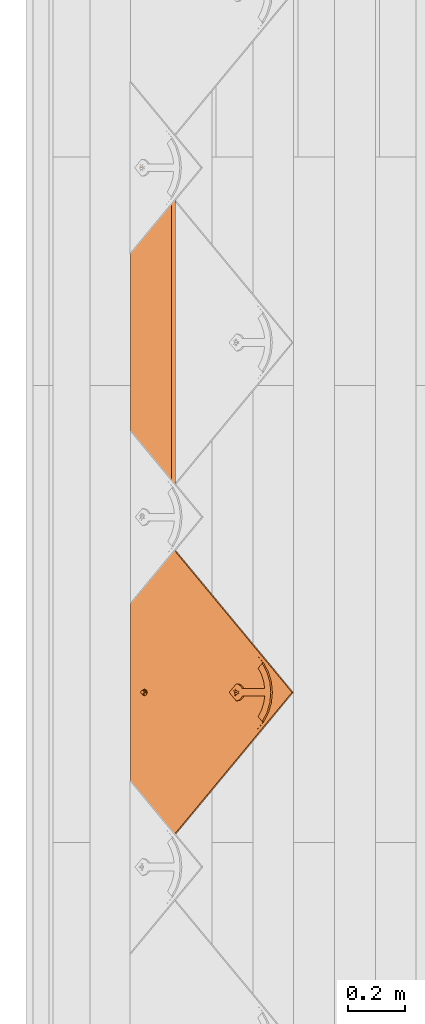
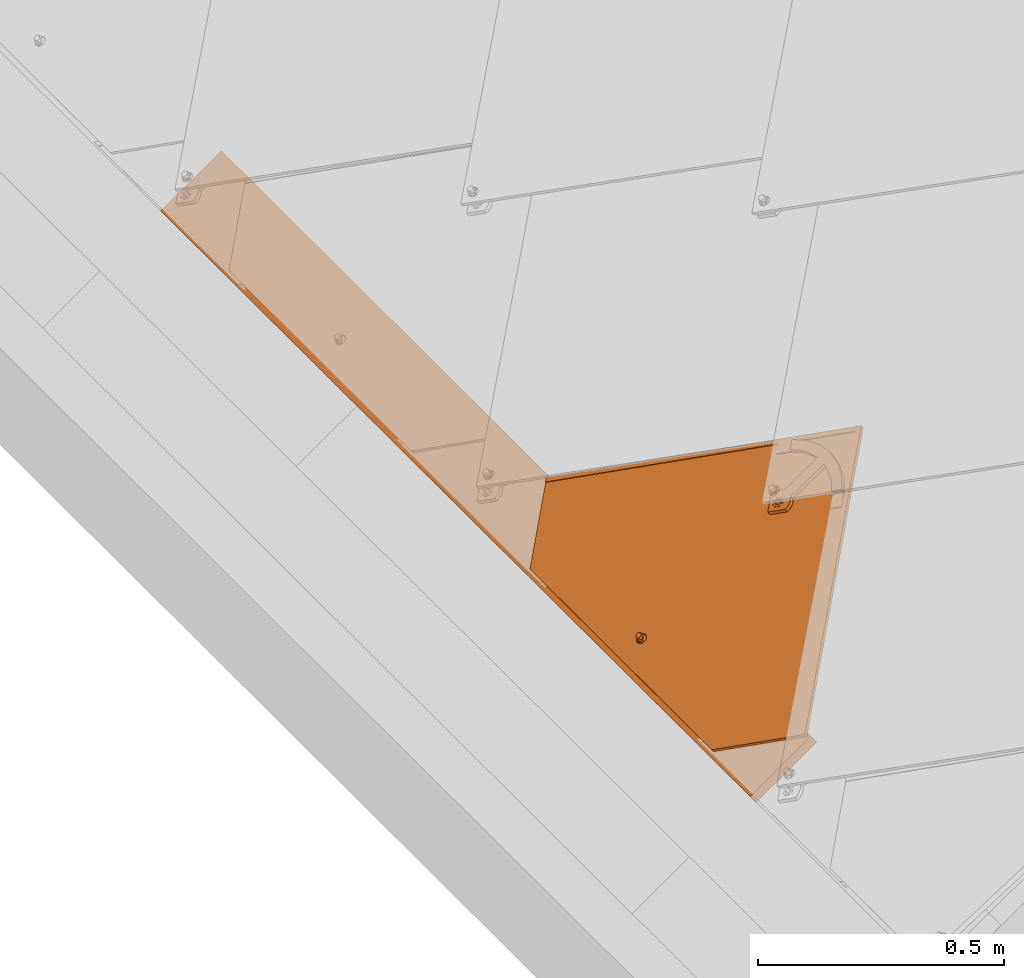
# One storey, part 47 of 151: 2 proxies, 1 element without a shape of its own.
"""IFC2X3 building model written with IfcOpenShell, lengths in millimetres."""

from ifc_helpers import new_model, entity, si_unit, converted_unit, derived_unit, direction, frame, frame_2d, origin, place, context, subcontext, project, spatial, rectangle, extrude, faceted_brep, source, transform, mapped, material, material_list, type_object, type_shapes, element, aggregate, save


model = new_model("IFC2X3")

# Units and contexts
model_context = context("Model", 3, precision=0.01, world=origin(), true_north=direction((6.12303176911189e-17, 1.0)))
body_context = subcontext(model_context, "Body", "Model", "MODEL_VIEW")
ifc_project = project(units=[si_unit("LENGTHUNIT", "METRE", prefix="MILLI"), si_unit("AREAUNIT", "SQUARE_METRE"), si_unit("VOLUMEUNIT", "CUBIC_METRE"), converted_unit("PLANEANGLEUNIT", "DEGREE", entity("IfcRatioMeasure", 0.0174532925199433), si_unit("PLANEANGLEUNIT", "RADIAN"), dimensions=[0, 0, 0, 0, 0, 0, 0]), si_unit("MASSUNIT", "GRAM", prefix="KILO"), derived_unit("MASSDENSITYUNIT", [(si_unit("MASSUNIT", "GRAM", prefix="KILO"), 1), (si_unit("LENGTHUNIT", "METRE"), -3)]), si_unit("TIMEUNIT", "SECOND"), si_unit("FREQUENCYUNIT", "HERTZ"), si_unit("THERMODYNAMICTEMPERATUREUNIT", "DEGREE_CELSIUS"), derived_unit("THERMALTRANSMITTANCEUNIT", [(si_unit("MASSUNIT", "GRAM", prefix="KILO"), 1), (si_unit("THERMODYNAMICTEMPERATUREUNIT", "KELVIN"), -1), (si_unit("TIMEUNIT", "SECOND"), -3)]), derived_unit("VOLUMETRICFLOWRATEUNIT", [(si_unit("LENGTHUNIT", "METRE"), 3), (si_unit("TIMEUNIT", "SECOND"), -1)]), si_unit("ELECTRICCURRENTUNIT", "AMPERE"), si_unit("ELECTRICVOLTAGEUNIT", "VOLT"), si_unit("POWERUNIT", "WATT"), si_unit("FORCEUNIT", "NEWTON", prefix="KILO"), si_unit("ILLUMINANCEUNIT", "LUX"), si_unit("LUMINOUSFLUXUNIT", "LUMEN"), si_unit("LUMINOUSINTENSITYUNIT", "CANDELA"), derived_unit("USERDEFINED", [(si_unit("MASSUNIT", "GRAM", prefix="KILO"), -1), (si_unit("LENGTHUNIT", "METRE"), -2), (si_unit("TIMEUNIT", "SECOND"), 3), (si_unit("LUMINOUSFLUXUNIT", "LUMEN"), 1)]), derived_unit("LINEARVELOCITYUNIT", [(si_unit("LENGTHUNIT", "METRE"), 1), (si_unit("TIMEUNIT", "SECOND"), -1)]), si_unit("PRESSUREUNIT", "PASCAL"), derived_unit("USERDEFINED", [(si_unit("LENGTHUNIT", "METRE"), -2), (si_unit("MASSUNIT", "GRAM", prefix="KILO"), 1), (si_unit("TIMEUNIT", "SECOND"), -2)])], contexts=[model_context])

# Site, building, storey
site_placement = place(None, origin())
site = spatial("IfcSite", under=ifc_project, at=site_placement, Name="Default", CompositionType="ELEMENT")
building_placement = place(site_placement, origin())
building = spatial("IfcBuilding", under=site, at=building_placement, CompositionType="ELEMENT")
storey_placement = place(building_placement, origin())
storey = spatial("IfcBuildingStorey", under=building, at=storey_placement, Name="Level 1", CompositionType="ELEMENT", Elevation=0.0)

# Assembly, proxy
assembly_placement = place(storey_placement, origin())
assembly = element("IfcElementAssembly", 1, at=assembly_placement, inside=storey, Name="Structural Framing Assembly:Roof Construction Assembly", ObjectType="Structural Framing Assembly:Roof Construction Assembly", AssemblyPlace="NOTDEFINED", PredefinedType="USERDEFINED")
ifc_material_1 = material(Name="Wood - Generic - Wood For Showcase")
building_element_proxy_type_1 = type_object("IfcBuildingElementProxyType", Name="Structural Framing 15", PredefinedType="NOTDEFINED", material=ifc_material_1)
shared_shape_1 = source(origin(), body_context, "Body", "SweptSolid", [
    extrude(rectangle(XDim=24.9999999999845, YDim=174.344679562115, at=frame_2d((-1.77635683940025e-13, -4.54747350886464e-13), x_axis=(0.0, 1.0))), frame((1128.20180147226, 1525.55080214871, 2760.23940055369), z_axis=(0.0, 1.0, 0.0), x_axis=(-0.819152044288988, 0.0, -0.573576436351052)), (0.0, 0.0, 1.0), 2400.0),
])
type_shapes(building_element_proxy_type_1, [shared_shape_1])
proxy_1_placement = place(assembly_placement, frame((-3370.06734507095, -2470.0, -2400.0)))
proxy_1 = element("IfcBuildingElementProxy", 2, at=proxy_1_placement, type_object=building_element_proxy_type_1, material=ifc_material_1, Name="Structural Framing 136:Structural Framing 15", ObjectType="Structural Framing 136:Structural Framing 15", context=body_context, shape_type="MappedRepresentation", body=[
    mapped(shared_shape_1, transform((0.0, 0.0, 0.0), scale=1.0)),
])
aggregate(assembly, [proxy_1])

# Proxy
ifc_material_2 = material(Name="Rubber - Sunstyle - Black")
ifc_material_3 = material(Name="Glass - Sunstyle - Tainted Black")
ifc_material_list_1 = material_list([ifc_material_2, ifc_material_3])
ifc_material_list_2 = material_list([ifc_material_2, ifc_material_3])
building_element_proxy_type_2 = type_object("IfcBuildingElementProxyType", Name="Shingle Bottom - Black", PredefinedType="NOTDEFINED", material=ifc_material_list_2)
shared_shape_2 = source(origin(), body_context, "Body", "Brep", [
    faceted_brep([(0.0, -1.79273515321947, -4.01619789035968), (-5.7742028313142, -5.12600528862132, -3.96037390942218), (-5.77420283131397, -4.75769619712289, 18.0314954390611), (0.0, -1.42442606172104, 17.9756714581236), (-5.77420283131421, -11.792545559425, -3.84872594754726), (-5.77420283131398, -11.4242364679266, 18.143143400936), (0.0, -15.1258156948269, -3.79290196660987), (0.0, -14.7575066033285, 18.1989673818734), (5.77420283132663, -11.7925455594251, -3.84872594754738), (5.77420283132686, -11.4242364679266, 18.1431434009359), (5.77420283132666, -5.12600528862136, -3.96037390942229), (5.77420283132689, -4.75769619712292, 18.031495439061), (-8.60370416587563, -16.6934641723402, 18.2313898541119), (0.0, -20.2567354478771, 18.2910657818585), (-12.1674751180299, -8.09096633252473, 18.0873194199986), (-8.60370416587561, 0.511531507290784, 17.9432489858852), (0.0, 4.07480278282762, 17.8835730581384), (8.60370416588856, 0.511531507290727, 17.9432489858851), (12.1674751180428, -8.09096633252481, 18.0873194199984), (8.60370416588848, -16.6934641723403, 18.2313898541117), (-11.4302228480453, -6.71737066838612, 20.4858706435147), (-9.77051349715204, -8.02009729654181, 22.3189355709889), (0.0, -0.706876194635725, 22.9603444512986), (0.0, 0.533621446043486, 22.3799978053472), (0.0, 2.69117229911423, 21.3706227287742), (-6.32324569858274, -4.35709193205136, 23.021476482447), (-6.32324569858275, -11.6575234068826, 23.1437405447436), (0.0, -18.7571148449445, 21.7298281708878), (0.0, -15.3077391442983, 23.2048725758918), (10.9851748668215, -11.808022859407, 20.3827540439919), (10.123850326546, -8.02413622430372, 22.0777687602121), (6.32324569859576, -4.3570919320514, 23.0214764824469), (6.32324569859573, -11.6575234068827, 23.1437405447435), (-6.32324569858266, -11.5234949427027, 31.146628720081), (0.0, -15.1737106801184, 31.2077607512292), (0.0, -7.8732792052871, 31.0854966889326), (-6.32324569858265, -4.22306346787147, 31.0243646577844), (6.32324569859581, -11.5234949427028, 31.1466287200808), (6.32324569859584, -4.22306346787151, 31.0243646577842), (0.0, -0.57284773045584, 30.963232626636), (0.0, -8.45927542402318, -3.90454992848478)], [[[0, 1, 2, 3]], [[1, 4, 5, 2]], [[4, 6, 7, 5]], [[6, 8, 9, 7]], [[8, 10, 11, 9]], [[10, 0, 3, 11]], [[12, 7, 13]], [[7, 12, 5]], [[14, 5, 12]], [[5, 14, 2]], [[15, 2, 14]], [[3, 2, 15]], [[15, 16, 3]], [[16, 17, 3]], [[11, 3, 17]], [[11, 17, 18]], [[9, 11, 18]], [[18, 19, 9]], [[7, 9, 19]], [[19, 13, 7]], [[15, 20, 16]], [[21, 22, 23, 24]], [[22, 21, 25]], [[20, 14, 12]], [[15, 14, 20]], [[25, 21, 26]], [[20, 24, 16]], [[12, 13, 27]], [[12, 27, 20]], [[21, 28, 26]], [[21, 27, 28]], [[20, 21, 24]], [[20, 27, 21]], [[19, 29, 13]], [[30, 23, 31]], [[30, 28, 27]], [[24, 23, 30]], [[29, 27, 13]], [[19, 18, 29]], [[29, 30, 27]], [[29, 17, 24]], [[24, 17, 16]], [[31, 32, 30]], [[23, 22, 31]], [[28, 30, 32]], [[29, 24, 30]], [[29, 18, 17]], [[33, 34, 35]], [[35, 36, 33]], [[34, 37, 35]], [[38, 35, 37]], [[35, 38, 39]], [[35, 39, 36]], [[40, 6, 4]], [[4, 1, 40]], [[1, 0, 40]], [[40, 8, 6]], [[0, 10, 40]], [[8, 40, 10]], [[22, 25, 36, 39]], [[25, 26, 33, 36]], [[26, 28, 34, 33]], [[28, 32, 37, 34]], [[32, 31, 38, 37]], [[31, 22, 39, 38]]]),
    faceted_brep([(0.0, 372.824876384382, 20.3195200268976), (0.0, 377.324245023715, 20.2441667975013), (-8.60370416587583, 376.388147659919, 20.2598440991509), (8.60370416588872, 376.388147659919, 20.2598440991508), (6.64022859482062, 381.157445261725, 20.1799702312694), (12.1674751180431, 384.990645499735, 20.1157736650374), (6.64022859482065, 388.823845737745, 20.0515770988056), (8.6037041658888, 393.59314333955, 19.9717032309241), (0.0, 392.657045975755, 19.9873805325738), (0.0, 397.156414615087, 19.9120273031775), (-8.60370416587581, 393.59314333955, 19.9717032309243), (-6.64022859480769, 388.823845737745, 20.0515770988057), (-12.1674751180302, 384.990645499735, 20.1157736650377), (-6.6402285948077, 381.157445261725, 20.1799702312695), (-6.6402282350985, 388.555922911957, 4.05382046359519), (0.0, 392.389122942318, 3.98962390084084), (-6.64022823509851, 380.889522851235, 4.18221358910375), (0.0, 377.056322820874, 4.24641015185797), (6.64022823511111, 380.889522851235, 4.18221358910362), (6.64022823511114, 388.555922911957, 4.05382046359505), (-8.603704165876, 376.12022504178, 4.26208746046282), (0.0, 372.556953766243, 4.32176338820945), (-12.1674751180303, 384.722722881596, 4.11801702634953), (-8.60370416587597, 393.325220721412, 3.97394659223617), (0.0, 396.888491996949, 3.91427066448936), (8.60370416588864, 393.325220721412, 3.97394659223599), (12.1674751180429, 384.722722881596, 4.11801702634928), (8.60370416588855, 376.12022504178, 4.26208746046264)], [[[0, 1, 2]], [[1, 0, 3]], [[3, 4, 1]], [[4, 3, 5]], [[6, 4, 5]], [[5, 7, 6]], [[7, 8, 6]], [[8, 7, 9]], [[8, 9, 10]], [[10, 11, 8]], [[12, 11, 10]], [[2, 13, 12]], [[12, 13, 11]], [[13, 2, 1]], [[8, 11, 14, 15]], [[11, 13, 16, 14]], [[13, 1, 17, 16]], [[1, 4, 18, 17]], [[4, 6, 19, 18]], [[6, 8, 15, 19]], [[20, 17, 21]], [[17, 20, 16]], [[22, 16, 20]], [[14, 16, 22]], [[23, 14, 22]], [[15, 14, 23]], [[23, 24, 15]], [[24, 25, 15]], [[19, 15, 25]], [[19, 25, 26]], [[26, 18, 19]], [[26, 27, 18]], [[17, 18, 27]], [[27, 21, 17]], [[24, 23, 10, 9]], [[10, 23, 22, 12]], [[20, 21, 0, 2]], [[20, 2, 12, 22]], [[21, 27, 3, 0]], [[3, 27, 26, 5]], [[25, 24, 9, 7]], [[25, 7, 5, 26]]]),
    faceted_brep([(518.247351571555, 79.9143812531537, 14.965257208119), (526.732038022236, 88.3990677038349, 14.8231598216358), (526.732038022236, 88.4241854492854, 16.3229495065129), (518.247351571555, 79.9394989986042, 16.4650468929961), (0.000322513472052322, 598.016093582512, 6.28834266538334), (-518.246706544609, 79.9143812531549, 14.9652572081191), (-526.73139299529, 88.3990677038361, 14.8231598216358), (0.000322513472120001, 614.983087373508, 6.00418773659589), (0.000322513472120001, 615.008205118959, 7.50397742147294), (-526.731392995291, 88.4241854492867, 16.3229495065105), (-518.246706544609, 79.9394989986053, 16.465046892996), (0.000322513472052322, 598.041211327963, 7.78813235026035)], [[[0, 1, 2, 3]], [[1, 0, 4, 5, 6, 7]], [[2, 1, 7, 8]], [[3, 2, 8, 9, 10, 11]], [[0, 3, 11, 4]], [[5, 10, 9, 6]], [[8, 7, 6, 9]], [[4, 11, 10, 5]]]),
    faceted_brep([(0.00032251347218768, 614.983087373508, 6.00418773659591), (-2.87802047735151, 396.187349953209, 9.66847193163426), (0.227808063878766, 396.596182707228, 9.6616250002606), (-5.77219193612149, 394.988712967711, 9.68854611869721), (3.3336366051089, 396.187349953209, 9.66847193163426), (6.22780806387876, 394.988712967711, 9.6885461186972), (8.71308943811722, 393.081956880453, 9.72047953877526), (10.620112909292, 390.59702396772, 9.76209598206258), (-8.25747331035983, 393.081956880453, 9.72047953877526), (-10.1644967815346, 390.59702396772, 9.76209598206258), (-11.3633018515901, 387.703258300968, 9.81055935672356), (-526.731392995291, 88.3990677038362, 14.8231598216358), (11.8189179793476, 387.703258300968, 9.81055935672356), (526.732038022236, 88.3990677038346, 14.8231598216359), (-11.7721919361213, 384.597865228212, 9.86256696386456), (-11.3633018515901, 381.492472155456, 9.91457457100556), (-10.1644967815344, 378.598706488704, 9.96303794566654), (-370.355016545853, -67.9334607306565, 17.4413406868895), (-8.25747331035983, 376.113773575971, 10.0046543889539), (-5.65685424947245, -2.29422365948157, 16.3420467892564), (-6.92820323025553, -3.95084560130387, 16.3697910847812), (-7.72740661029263, -5.88002271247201, 16.4021000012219), (-8.0, -7.95028476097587, 16.4367717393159), (-7.72740661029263, -10.0205468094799, 16.4714434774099), (-6.9282032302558, -11.9497239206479, 16.5037523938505), (-5.65685424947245, -13.6063458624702, 16.5314966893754), (-4.0, -14.8775165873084, 16.5527856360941), (-2.07055236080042, -15.676607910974, 16.5661684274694), (0.0, -15.9491630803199, 16.5707330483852), (370.355661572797, -67.9334607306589, 17.4413406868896), (10.620112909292, 378.598706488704, 9.96303794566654), (8.71308943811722, 376.11377357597, 10.0046543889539), (5.65685424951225, -2.29422365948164, 16.3420467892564), (6.92820323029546, -3.9508456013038, 16.3697910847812), (7.72740661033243, -5.88002271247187, 16.4021000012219), (8.0, -7.9502847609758, 16.4367717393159), (7.72740661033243, -10.0205468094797, 16.4714434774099), (6.92820323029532, -11.9497239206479, 16.5037523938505), (5.65685424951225, -13.6063458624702, 16.5314966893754), (4.0, -14.8775165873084, 16.5527856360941), (2.07055236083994, -15.676607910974, 16.5661684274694), (-5.77219193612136, 374.207017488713, 10.0365878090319), (-4.0, -1.02305293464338, 16.3207578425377), (-2.87802047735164, 373.008380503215, 10.0566619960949), (-2.07055236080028, -0.223961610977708, 16.3073750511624), (0.227808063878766, 372.599547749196, 10.0635089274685), (0.0, 0.0485935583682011, 16.3028104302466), (2.07055236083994, -0.223961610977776, 16.3073750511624), (3.3336366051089, 373.008380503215, 10.0566619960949), (4.0, -1.02305293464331, 16.3207578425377), (6.22780806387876, 374.207017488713, 10.0365878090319), (12.2278080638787, 384.597865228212, 9.86256696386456), (11.8189179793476, 381.492472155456, 9.91457457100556), (-370.355016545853, -68.059049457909, 9.94239226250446), (-6.92820323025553, -4.07643432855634, 8.87084266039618), (-7.72740661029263, -6.00561143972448, 8.90315157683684), (-8.0, -8.07587348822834, 8.93782331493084), (-7.72740661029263, -10.1461355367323, 8.97249505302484), (-6.9282032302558, -12.0753126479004, 9.00480396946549), (-5.65685424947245, -13.7319345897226, 9.03254826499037), (-5.65685424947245, -2.41981238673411, 8.8430983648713), (-8.25747331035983, 375.988184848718, 2.50570596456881), (-4.0, -15.0031053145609, 9.05383721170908), (-2.07055236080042, -15.8021966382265, 9.06722000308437), (0.0, -16.0747518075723, 9.07178462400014), (370.355661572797, -68.0590494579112, 9.9423922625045), (-10.1644967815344, 378.473117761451, 2.46408952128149), (-526.731392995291, 88.2734789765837, 7.32421139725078), (-11.3633018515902, 381.366883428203, 2.41562614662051), (-11.7721919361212, 384.472276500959, 2.36361853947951), (-11.3633018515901, 387.577669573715, 2.3116109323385), (0.00032251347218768, 614.857498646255, -1.49476068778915), (-10.1644967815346, 390.471435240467, 2.26314755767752), (-8.25747331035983, 392.956368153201, 2.22153111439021), (-5.77219193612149, 394.863124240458, 2.18959769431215), (-2.87802047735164, 396.061761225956, 2.16952350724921), (0.227808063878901, 396.470593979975, 2.16267657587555), (3.3336366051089, 396.061761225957, 2.1695235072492), (6.22780806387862, 394.863124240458, 2.18959769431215), (8.71308943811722, 392.956368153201, 2.2215311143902), (10.620112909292, 390.471435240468, 2.26314755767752), (11.8189179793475, 387.577669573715, 2.31161093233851), (526.732038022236, 88.2734789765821, 7.32421139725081), (12.2278080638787, 384.472276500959, 2.3636185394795), (10.620112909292, 378.473117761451, 2.46408952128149), (11.8189179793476, 381.366883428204, 2.41562614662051), (-5.77219193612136, 374.08142876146, 2.53763938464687), (-4.0, -1.14864166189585, 8.8218094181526), (-2.87802047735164, 372.882791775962, 2.55771357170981), (-2.07055236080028, -0.349550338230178, 8.8084266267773), (0.227808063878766, 372.473959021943, 2.56456050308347), (0.0, -0.0769951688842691, 8.80386200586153), (2.07055236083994, -0.349550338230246, 8.8084266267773), (3.3336366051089, 372.882791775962, 2.55771357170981), (4.0, -1.14864166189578, 8.8218094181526), (6.22780806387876, 374.081428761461, 2.53763938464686), (5.65685424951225, -2.41981238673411, 8.8430983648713), (8.71308943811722, 375.988184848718, 2.50570596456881), (6.92820323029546, -4.07643432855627, 8.87084266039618), (7.72740661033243, -6.00561143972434, 8.90315157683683), (8.0, -8.07587348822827, 8.93782331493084), (7.72740661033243, -10.1461355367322, 8.97249505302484), (6.92820323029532, -12.0753126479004, 9.00480396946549), (5.65685424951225, -13.7319345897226, 9.03254826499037), (4.0, -15.0031053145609, 9.05383721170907), (2.07055236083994, -15.8021966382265, 9.06722000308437)], [[[0, 1, 2]], [[1, 0, 3]], [[0, 2, 4]], [[4, 5, 0]], [[5, 6, 0]], [[0, 6, 7]], [[8, 3, 0]], [[9, 8, 0]], [[9, 0, 10]], [[10, 0, 11]], [[12, 0, 7]], [[12, 13, 0]], [[11, 14, 10]], [[14, 11, 15]], [[16, 15, 11]], [[11, 17, 16]], [[16, 17, 18]], [[19, 18, 17]], [[19, 17, 20]], [[20, 17, 21]], [[22, 21, 17]], [[22, 17, 23]], [[24, 23, 17]], [[17, 25, 24]], [[26, 25, 17]], [[27, 26, 17]], [[17, 28, 27]], [[28, 17, 29]], [[29, 13, 30]], [[29, 30, 31]], [[29, 31, 32]], [[32, 33, 29]], [[33, 34, 29]], [[35, 29, 34]], [[29, 35, 36]], [[36, 37, 29]], [[29, 37, 38]], [[38, 39, 29]], [[40, 28, 29]], [[39, 40, 29]], [[41, 18, 19]], [[42, 41, 19]], [[42, 43, 41]], [[44, 43, 42]], [[44, 45, 43]], [[46, 45, 44]], [[47, 45, 46]], [[48, 45, 47]], [[49, 48, 47]], [[49, 50, 48]], [[32, 50, 49]], [[32, 31, 50]], [[12, 51, 13]], [[52, 13, 51]], [[13, 52, 30]], [[53, 54, 55]], [[53, 55, 56]], [[56, 57, 53]], [[57, 58, 53]], [[53, 58, 59]], [[60, 54, 53]], [[61, 60, 53]], [[59, 62, 53]], [[62, 63, 53]], [[63, 64, 53]], [[53, 64, 65]], [[66, 61, 53]], [[66, 53, 67]], [[68, 66, 67]], [[69, 68, 67]], [[69, 67, 70]], [[67, 71, 70]], [[72, 70, 71]], [[73, 72, 71]], [[71, 74, 73]], [[74, 71, 75]], [[75, 71, 76]], [[77, 76, 71]], [[77, 71, 78]], [[79, 78, 71]], [[71, 80, 79]], [[80, 71, 81]], [[71, 82, 81]], [[83, 81, 82]], [[84, 82, 65]], [[85, 82, 84]], [[82, 85, 83]], [[86, 60, 61]], [[86, 87, 60]], [[88, 87, 86]], [[89, 87, 88]], [[90, 89, 88]], [[90, 91, 89]], [[92, 91, 90]], [[92, 90, 93]], [[94, 92, 93]], [[93, 95, 94]], [[94, 95, 96]], [[97, 96, 95]], [[96, 97, 65]], [[84, 65, 97]], [[98, 96, 65]], [[99, 98, 65]], [[99, 65, 100]], [[101, 100, 65]], [[102, 101, 65]], [[103, 102, 65]], [[104, 103, 65]], [[105, 104, 65]], [[65, 64, 105]], [[11, 0, 71, 67]], [[17, 11, 67, 53]], [[13, 29, 65, 82]], [[0, 13, 82, 71]], [[22, 56, 55, 21]], [[21, 55, 54, 20]], [[42, 19, 60, 87]], [[60, 19, 20, 54]], [[44, 42, 87, 89]], [[44, 89, 91, 46]], [[46, 91, 92, 47]], [[47, 92, 94, 49]], [[33, 32, 96, 98]], [[96, 32, 49, 94]], [[34, 33, 98, 99]], [[34, 99, 100, 35]], [[35, 100, 101, 36]], [[36, 101, 102, 37]], [[39, 38, 103, 104]], [[103, 38, 37, 102]], [[40, 39, 104, 105]], [[40, 105, 64, 28]], [[28, 64, 63, 27]], [[27, 63, 62, 26]], [[24, 25, 59, 58]], [[59, 25, 26, 62]], [[23, 24, 58, 57]], [[23, 57, 56, 22]], [[14, 69, 70, 10]], [[10, 70, 72, 9]], [[3, 8, 73, 74]], [[73, 8, 9, 72]], [[1, 3, 74, 75]], [[1, 75, 76, 2]], [[2, 76, 77, 4]], [[4, 77, 78, 5]], [[7, 6, 79, 80]], [[79, 6, 5, 78]], [[12, 7, 80, 81]], [[12, 81, 83, 51]], [[51, 83, 85, 52]], [[52, 85, 84, 30]], [[50, 31, 97, 95]], [[97, 31, 30, 84]], [[48, 50, 95, 93]], [[48, 93, 90, 45]], [[45, 90, 88, 43]], [[43, 88, 86, 41]], [[16, 18, 61, 66]], [[41, 86, 61, 18]], [[68, 15, 16, 66]], [[15, 68, 69, 14]], [[29, 17, 53, 65]]]),
    faceted_brep([(-111.269043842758, 451.472531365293, 11.2429332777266), (-84.9443960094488, 477.793488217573, 10.8021227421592), (-102.027571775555, 494.874268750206, 10.5160621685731), (-108.279973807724, 489.512620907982, 10.6058564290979), (-114.2509690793, 483.839345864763, 10.7008696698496), (-128.946713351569, 469.147722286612, 10.9469178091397), (128.946713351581, 469.147722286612, 10.9469178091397), (114.250969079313, 483.839345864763, 10.7008696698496), (108.279973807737, 489.512620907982, 10.6058564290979), (102.027571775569, 494.874268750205, 10.5160621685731), (84.9431983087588, 477.794685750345, 10.802102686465), (111.269043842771, 451.472531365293, 11.2429332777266), (-8.48528137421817, 393.302959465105, 19.7181805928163), (-18.7041061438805, 407.484939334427, 19.4806677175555), (-23.2046504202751, 402.851933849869, 19.5582590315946), (-10.3923048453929, 390.818026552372, 19.7597970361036), (-6.0, 395.209715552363, 19.6862471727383), (-13.2999999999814, 411.02298750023, 19.4214142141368), (-3.10582854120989, 396.408352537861, 19.6661729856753), (0.0, 396.81718529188, 19.6593260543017), (13.3000000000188, 411.022987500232, 19.4214142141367), (3.10582854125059, 396.408352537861, 19.6661729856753), (6.0, 395.209715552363, 19.6862471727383), (18.7041061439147, 407.484939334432, 19.4806677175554), (8.48528137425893, 393.302959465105, 19.7181805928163), (23.2046504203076, 402.85193384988, 19.5582590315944), (10.3923048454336, 390.818026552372, 19.7597970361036), (26.5842195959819, 397.347783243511, 19.6504398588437), (11.5911099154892, 387.92426088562, 19.8082604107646), (28.6795527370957, 391.238383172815, 19.752757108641), (12.0, 384.818867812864, 19.8602680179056), (29.3894280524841, 384.818867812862, 19.8602680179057), (11.5911099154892, 381.713474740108, 19.9122756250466), (10.3923048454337, 378.819709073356, 19.9607389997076), (8.48528137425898, 376.334776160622, 20.0023554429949), (0.0, 355.433560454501, 20.3523987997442), (6.0, 374.428020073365, 20.034288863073), (3.10582854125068, 373.229383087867, 20.0543630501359), (0.0, 372.820550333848, 20.0612099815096), (-3.10582854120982, 373.229383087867, 20.0543630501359), (-6.0, 374.428020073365, 20.034288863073), (-8.48528137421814, 376.334776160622, 20.0023554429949), (-29.3894280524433, 384.818867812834, 19.8602680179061), (-10.3923048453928, 378.819709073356, 19.9607389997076), (-11.5911099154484, 381.713474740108, 19.9122756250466), (-12.0, 384.818867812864, 19.8602680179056), (-28.67955273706, 391.238383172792, 19.7527571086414), (-11.5911099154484, 387.92426088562, 19.8082604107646), (-26.5842195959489, 397.347783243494, 19.650439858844), (-13.2999999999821, 505.810987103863, 17.833951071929), (13.3000000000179, 505.810987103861, 17.833951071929), (0.0, 531.282600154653, 17.4073649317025), (36.4908407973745, 527.108634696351, 17.4772684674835), (38.7697427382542, 500.996106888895, 17.9145883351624), (71.096085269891, 514.802420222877, 17.6833669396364), (62.9243331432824, 491.592473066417, 18.0720758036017), (102.027571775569, 494.999857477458, 18.0150105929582), (84.9443960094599, 477.919076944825, 18.3010711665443), (-36.4908407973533, 527.108634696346, 17.4772684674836), (-38.7697427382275, 500.996106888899, 17.9145883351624), (-71.0960852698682, 514.802420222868, 17.6833669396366), (-62.9243331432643, 491.592473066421, 18.0720758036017), (-102.027571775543, 494.999857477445, 18.0150105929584), (-84.9443960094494, 477.919076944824, 18.3010711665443), (0.0, 355.266108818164, 10.3538009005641), (0.0, 372.653098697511, 10.0626120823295), (3.10582854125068, 373.06193145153, 10.0557651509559), (-3.10582854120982, 373.06193145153, 10.0557651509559), (6.0, 374.260568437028, 10.0356909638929), (8.48528137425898, 376.167324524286, 10.0037575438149), (29.3894280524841, 384.651416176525, 9.86167011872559), (-6.0, 374.260568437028, 10.0356909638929), (-8.48528137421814, 376.167324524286, 10.0037575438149), (-29.3894280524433, 384.651416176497, 9.86167011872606), (-10.3923048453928, 378.652257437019, 9.96214110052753), (-11.5911099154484, 381.546023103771, 9.91367772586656), (-12.0, 384.651416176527, 9.86167011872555), (-28.67955273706, 391.070931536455, 9.75415920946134), (-11.5911099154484, 387.756809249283, 9.80966251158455), (-26.5842195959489, 397.180331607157, 9.65184195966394), (-10.3923048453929, 390.650574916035, 9.76119913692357), (-23.2046504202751, 402.684482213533, 9.5596611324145), (-8.48528137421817, 393.135507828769, 9.71958269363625), (-18.7041061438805, 407.31748769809, 9.48206981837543), (-6.0, 395.042263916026, 9.6876492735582), (-13.2999999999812, 410.855535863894, 9.4228163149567), (-3.10582854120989, 396.240900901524, 9.66757508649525), (0.0, 396.649733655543, 9.66072815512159), (13.3000000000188, 410.855535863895, 9.42281631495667), (-13.2999999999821, 505.643535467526, 7.83535317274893), (13.3000000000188, 505.643535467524, 7.83535317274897), (0.0, 531.115148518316, 7.4087670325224), (-36.4908407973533, 526.94118306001, 7.47867056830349), (-38.7697427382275, 500.828655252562, 7.91599043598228), (-71.0960852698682, 514.634968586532, 7.68476904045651), (-62.9243331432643, 491.425021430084, 8.07347790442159), (-102.027571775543, 494.832405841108, 8.01641269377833), (-84.9431983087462, 477.752822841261, 8.30245321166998), (-108.279973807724, 489.470757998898, 8.10620695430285), (-114.2509690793, 483.79748295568, 8.2012201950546), (-111.269043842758, 451.430668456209, 8.74328380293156), (-128.946713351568, 469.105859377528, 8.44726833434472), (36.4908407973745, 526.941183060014, 7.47867056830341), (38.7697427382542, 500.828655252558, 7.91599043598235), (71.096085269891, 514.634968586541, 7.68476904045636), (62.9243331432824, 491.425021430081, 8.07347790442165), (102.027571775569, 494.832405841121, 8.01641269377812), (84.9443960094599, 477.751625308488, 8.30247326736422), (108.279973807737, 489.470757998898, 8.10620695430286), (114.250969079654, 483.797482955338, 8.20122019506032), (111.269043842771, 451.430668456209, 8.74328380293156), (128.946713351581, 469.105859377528, 8.44726833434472), (3.10582854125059, 396.240900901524, 9.66757508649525), (6.0, 395.042263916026, 9.6876492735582), (18.7041061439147, 407.317487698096, 9.48206981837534), (8.48528137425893, 393.135507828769, 9.71958269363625), (23.2046504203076, 402.684482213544, 9.55966113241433), (10.3923048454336, 390.650574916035, 9.76119913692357), (26.5842195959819, 397.180331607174, 9.65184195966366), (11.5911099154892, 387.756809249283, 9.80966251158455), (28.6795527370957, 391.070931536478, 9.75415920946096), (12.0, 384.651416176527, 9.86167011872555), (11.5911099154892, 381.546023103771, 9.91367772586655), (10.3923048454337, 378.652257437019, 9.96214110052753)], [[[0, 1, 2, 3, 4, 5]], [[6, 7, 8, 9, 10, 11]], [[12, 13, 14]], [[15, 12, 14]], [[16, 13, 12]], [[13, 16, 17]], [[17, 16, 18]], [[18, 19, 17]], [[20, 17, 19]], [[19, 21, 20]], [[22, 20, 21]], [[22, 23, 20]], [[22, 24, 23]], [[25, 23, 24]], [[26, 25, 24]], [[25, 26, 27]], [[26, 28, 27]], [[29, 27, 28]], [[28, 30, 29]], [[31, 29, 30]], [[30, 32, 31]], [[32, 33, 31]], [[31, 33, 34]], [[34, 35, 31]], [[34, 36, 35]], [[37, 35, 36]], [[38, 35, 37]], [[35, 38, 39]], [[40, 35, 39]], [[40, 41, 35]], [[42, 35, 41]], [[43, 42, 41]], [[43, 44, 42]], [[44, 45, 42]], [[45, 46, 42]], [[46, 45, 47]], [[48, 46, 47]], [[47, 15, 48]], [[48, 15, 14]], [[20, 49, 17]], [[49, 20, 50]], [[51, 49, 50]], [[50, 52, 51]], [[53, 52, 50]], [[52, 53, 54]], [[55, 54, 53]], [[54, 55, 56]], [[55, 57, 56]], [[58, 49, 51]], [[49, 58, 59]], [[60, 59, 58]], [[60, 61, 59]], [[61, 60, 62]], [[61, 62, 63]], [[64, 65, 66]], [[65, 64, 67]], [[64, 66, 68]], [[68, 69, 64]], [[64, 69, 70]], [[71, 67, 64]], [[71, 64, 72]], [[72, 64, 73]], [[73, 74, 72]], [[74, 73, 75]], [[76, 75, 73]], [[77, 76, 73]], [[76, 77, 78]], [[78, 77, 79]], [[80, 78, 79]], [[81, 80, 79]], [[82, 80, 81]], [[81, 83, 82]], [[83, 84, 82]], [[84, 83, 85]], [[85, 86, 84]], [[87, 86, 85]], [[87, 85, 88]], [[88, 85, 89]], [[88, 89, 90]], [[89, 91, 90]], [[91, 89, 92]], [[93, 92, 89]], [[94, 92, 93]], [[93, 95, 94]], [[95, 96, 94]], [[97, 96, 95]], [[98, 96, 97]], [[99, 98, 97]], [[97, 100, 99]], [[101, 99, 100]], [[102, 90, 91]], [[90, 102, 103]], [[104, 103, 102]], [[103, 104, 105]], [[105, 104, 106]], [[107, 105, 106]], [[107, 106, 108]], [[109, 107, 108]], [[110, 107, 109]], [[111, 110, 109]], [[87, 88, 112]], [[113, 112, 88]], [[114, 113, 88]], [[115, 113, 114]], [[115, 114, 116]], [[116, 117, 115]], [[116, 118, 117]], [[117, 118, 119]], [[119, 118, 120]], [[121, 119, 120]], [[120, 70, 121]], [[122, 121, 70]], [[70, 69, 123]], [[123, 122, 70]], [[17, 49, 89, 85]], [[13, 17, 85, 83]], [[14, 13, 83, 81]], [[81, 79, 48, 14]], [[46, 48, 79, 77]], [[42, 46, 77, 73]], [[35, 42, 73, 64]], [[31, 35, 64, 70]], [[29, 31, 70, 120]], [[27, 29, 120, 118]], [[118, 116, 25, 27]], [[23, 25, 116, 114]], [[20, 23, 114, 88]], [[50, 20, 88, 90]], [[9, 106, 104, 54, 56]], [[52, 54, 104, 102]], [[51, 52, 102, 91]], [[58, 51, 91, 92]], [[94, 96, 2, 62, 60]], [[60, 58, 92, 94]], [[45, 76, 78, 47]], [[47, 78, 80, 15]], [[16, 12, 82, 84]], [[80, 82, 12, 15]], [[18, 16, 84, 86]], [[87, 19, 18, 86]], [[21, 112, 113, 22]], [[22, 113, 115, 24]], [[28, 26, 117, 119]], [[115, 117, 26, 24]], [[30, 28, 119, 121]], [[21, 19, 87, 112]], [[30, 121, 122, 32]], [[32, 122, 123, 33]], [[36, 34, 69, 68]], [[123, 69, 34, 33]], [[37, 36, 68, 66]], [[65, 38, 37, 66]], [[39, 67, 71, 40]], [[40, 71, 72, 41]], [[44, 43, 74, 75]], [[72, 74, 43, 41]], [[45, 44, 75, 76]], [[39, 38, 65, 67]], [[7, 6, 111, 109]], [[6, 11, 110, 111]], [[7, 109, 108, 8]], [[108, 106, 9, 8]], [[11, 10, 107, 110]], [[0, 5, 101, 100]], [[1, 0, 100, 97]], [[2, 96, 98, 3]], [[98, 99, 4, 3]], [[5, 4, 99, 101]], [[63, 62, 2, 1]], [[56, 57, 10]], [[10, 9, 56]], [[1, 95, 61, 63]], [[1, 97, 95]], [[93, 89, 49, 59]], [[95, 93, 59, 61]], [[90, 103, 53, 50]], [[103, 105, 55, 53]], [[10, 57, 55]], [[107, 10, 105]], [[55, 105, 10]]]),
])
type_shapes(building_element_proxy_type_2, [shared_shape_2])
proxy_2_placement = place(storey_placement, frame((-2254.71620618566, -418.174830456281, 366.500952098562), z_axis=(-0.57357643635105, 0.0, 0.819152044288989), x_axis=(0.0, -1.0, 0.0)))
element("IfcBuildingElementProxy", 3, at=proxy_2_placement, inside=storey, type_object=building_element_proxy_type_2, material=ifc_material_list_1, Name="Roofing_Panels_SunStyle_Tile_Shingle-Bottom:Shingle Bottom - Black", ObjectType="Roofing_Panels_SunStyle_Tile_Shingle-Bottom:Shingle Bottom - Black", context=body_context, shape_type="MappedRepresentation", body=[
    mapped(shared_shape_2, transform((0.0, 0.0, 0.0), scale=1.0)),
])

save(model, "model.ifc")
